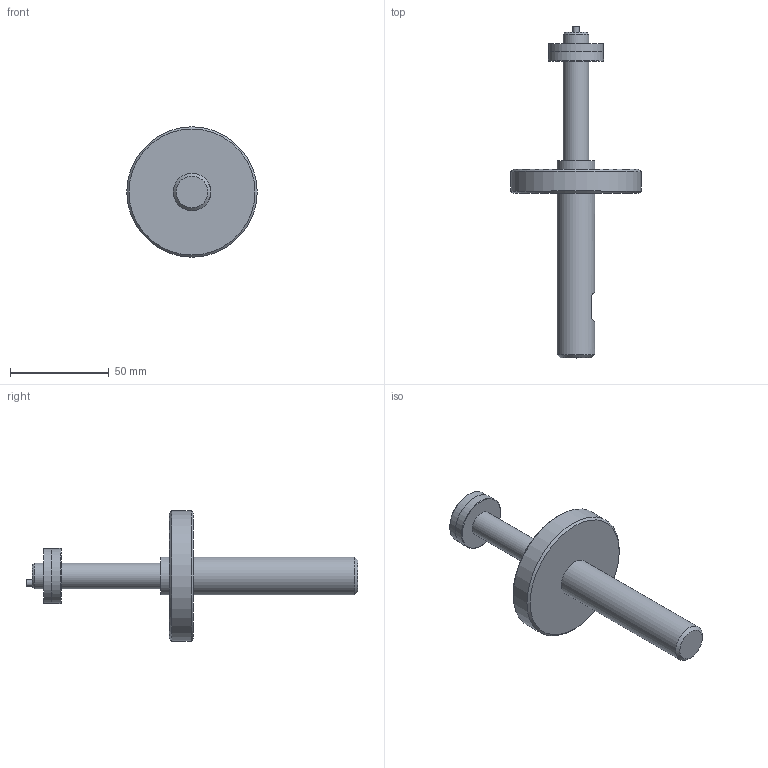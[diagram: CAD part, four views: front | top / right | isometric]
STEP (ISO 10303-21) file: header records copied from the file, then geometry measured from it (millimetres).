
FILE_DESCRIPTION (( 'STEP AP203' ), '1' );
FILE_NAME ('AF50-SIMPLE - AF50-13.00-28.00M.step', '2025-01-21T16:26:06', ( '' ), ( '' ), 'SwSTEP 2.0', 'SolidWorks 2024', '' );
FILE_SCHEMA (( 'CONFIG_CONTROL_DESIGN' ));
Length unit declared in the file: inch
Products named in the file (1): AF50-SIMPLE - AF50-13.00-28.00M
Bounding box: 66.04 x 168.02 x 66.04 mm (x, y, z)
Volume: 78886 mm3; surface area: 18285.3 mm2
Topology: 1 solids, 1 shells, 24 faces, 40 edges, 25 vertices
Faces by surface type: plane 11, cylinder 7, cone 5, torus 1
Full cylindrical faces by diameter (mm): 3.175 x1, 12.878 x2, 19.05 x2, 27.494 x1, 66.04 x1
Entity records: 569 total; most frequent: DIRECTION 94, CARTESIAN_POINT 81, ORIENTED_EDGE 52, AXIS2_PLACEMENT_3D 45, EDGE_LOOP 44, FACE_OUTER_BOUND 32, EDGE_CURVE 26, VERTEX_POINT 24
